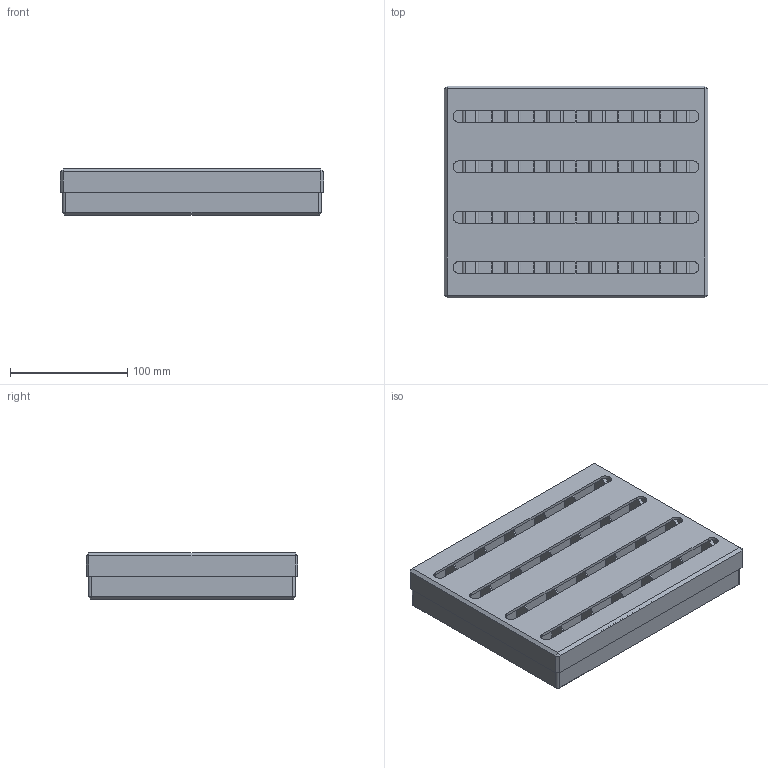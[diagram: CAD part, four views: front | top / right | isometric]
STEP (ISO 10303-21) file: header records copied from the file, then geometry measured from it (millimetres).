
FILE_DESCRIPTION(/* description */ ('','CAx-IF Rec.Pracs.---Representation and Presentation of Product Manufacturing Information (PMI)---4.0---2014-10-13'),/* implementation_level */ '2;1');
FILE_NAME(/* name */ 'mini monster truck pocket v4.step',/* time_stamp */ '2024-12-31T20:32:54-07:00',/* author */ (''),/* organization */ (''),/* preprocessor_version */ 'ST-DEVELOPER v20',/* originating_system */ 'Autodesk Translation Framework v13.20.0.188',/* authorisation */ '');
FILE_SCHEMA (('AP242_MANAGED_MODEL_BASED_3D_ENGINEERING_MIM_LF { 1 0 10303 442 1 1 4 }'));
Length unit declared in the file: millimetre
Products named in the file (1): mini monster truck pocket
Bounding box: 225 x 181 x 39.5 mm (x, y, z)
Volume: 366527.8 mm3; surface area: 324242 mm2
Topology: 2 solids, 2 shells, 413 faces, 1204 edges, 796 vertices
Faces by surface type: plane 261, cylinder 148, cone 4
Entity records: 13686 total; most frequent: CARTESIAN_POINT 2414, ORIENTED_EDGE 2408, DIRECTION 2332, EDGE_CURVE 1204, LINE 904, VECTOR 904, VERTEX_POINT 796, AXIS2_PLACEMENT_3D 714
